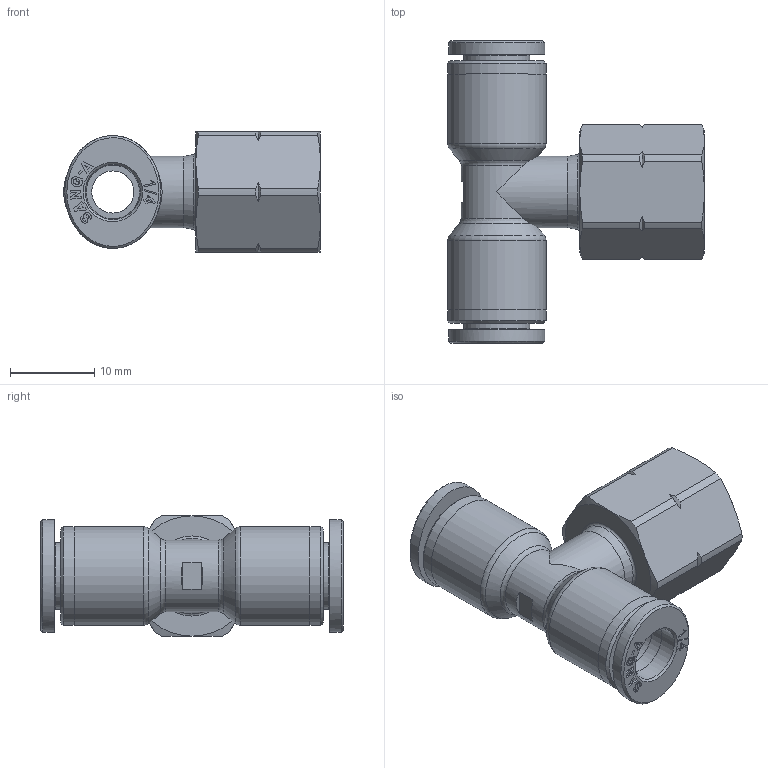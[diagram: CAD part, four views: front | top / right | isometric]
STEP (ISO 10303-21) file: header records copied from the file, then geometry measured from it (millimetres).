
FILE_DESCRIPTION((''),'2;1');
FILE_NAME('C:\Users\user0117\Desktop\김진일\홈페이지\1_4\Internet\G-FITTING INCH (STEP)\GPTF 1_4-N01U.stp','2020-01-15T15:33:30',('user0117'),(''),'Autodesk Inventor 2013','Autodesk Inventor 2013','');
FILE_SCHEMA(('AUTOMOTIVE_DESIGN { 1 0 10303 214 1 1 1 1 }'));
Length unit declared in the file: millimetre
Products named in the file (7): GPTF 1_4-N01U; GPLF BODY 1-4 N01(BRASS); GPT 1_4 PLASTIC ASSY; GPT BODY 1-4(PLASTIC); G-COLLAR G1-4L; COLLAR G1-4L; SLEEVE G1-4
Assembly tree (7 placements, depth 4):
  GPTF 1_4-N01U
    GPLF BODY 1-4 N01(BRASS)
    GPT 1_4 PLASTIC ASSY
      GPT BODY 1-4(PLASTIC)
      G-COLLAR G1-4L  x2
        COLLAR G1-4L
        SLEEVE G1-4
Bounding box: 30.5 x 35.9 x 14.29 mm (x, y, z)
Volume: 4458.9 mm3; surface area: 4525.4 mm2
Topology: 6 solids, 6 shells, 335 faces, 855 edges, 564 vertices
Faces by surface type: plane 207, bspline 44, cylinder 42, cone 37, torus 5
Full cylindrical faces by diameter (mm): 4 x1, 5 x3, 6.55 x6, 7.85 x2, 8.5 x1, 11.7 x4
Entity records: 6573 total; most frequent: CARTESIAN_POINT 1666, ORIENTED_EDGE 970, DIRECTION 957, EDGE_CURVE 485, AXIS2_PLACEMENT_3D 336, VERTEX_POINT 333, VECTOR 285, LINE 285
